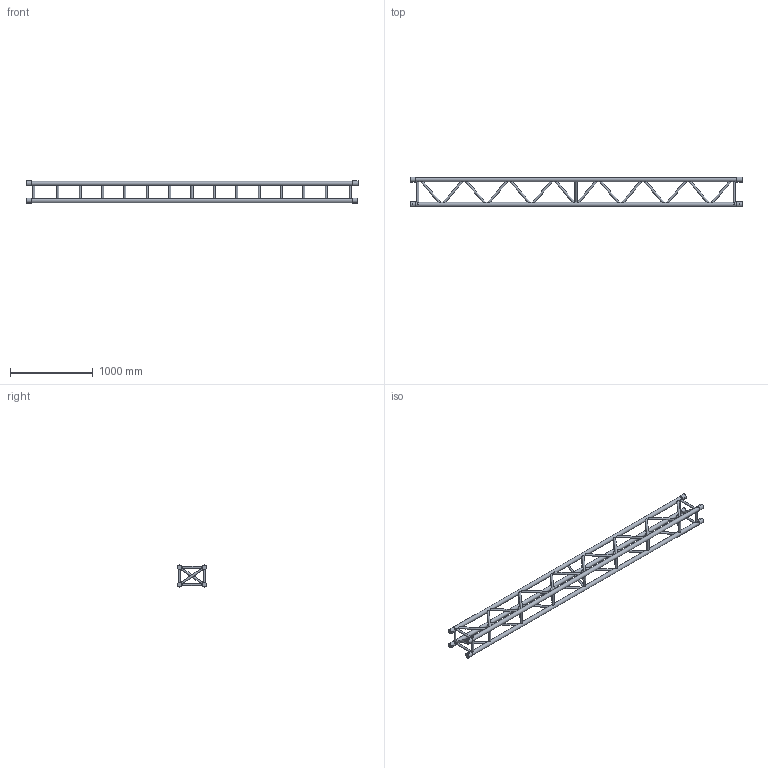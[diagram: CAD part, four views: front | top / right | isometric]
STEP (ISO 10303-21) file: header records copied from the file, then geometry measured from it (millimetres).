
FILE_DESCRIPTION(/* description */ (''),/* implementation_level */ '2;1');
FILE_NAME(/* name */ 'C:\Users\adrian.toca\Desktop\111110055.stp',/* time_stamp */ '2016-09-15T14:06:59+03:00',/* author */ ('adrian.toca'),/* organization */ (''),/* preprocessor_version */ 'ST-DEVELOPER v15.6',/* originating_system */ 'Autodesk Inventor 2015',/* authorisation */ '');
FILE_SCHEMA (('AUTOMOTIVE_DESIGN { 1 0 10303 214 3 1 1 }'));
Length unit declared in the file: millimetre
Products named in the file (1): 260030912
Bounding box: 4000 x 357.8 x 265.8 mm (x, y, z)
Volume: 38436804.1 mm3; surface area: 3692677.1 mm2
Topology: 23 solids, 28 shells, 274 faces, 554 edges, 348 vertices
Faces by surface type: cylinder 144, plane 122, cone 8
Full cylindrical faces by diameter (mm): 10 x8, 25 x52, 50 x4, 58.8 x8
Entity records: 9313 total; most frequent: CARTESIAN_POINT 4489, DIRECTION 880, ORIENTED_EDGE 804, EDGE_LOOP 452, AXIS2_PLACEMENT_3D 413, EDGE_CURVE 352, VERTEX_POINT 262, STYLED_ITEM 236
